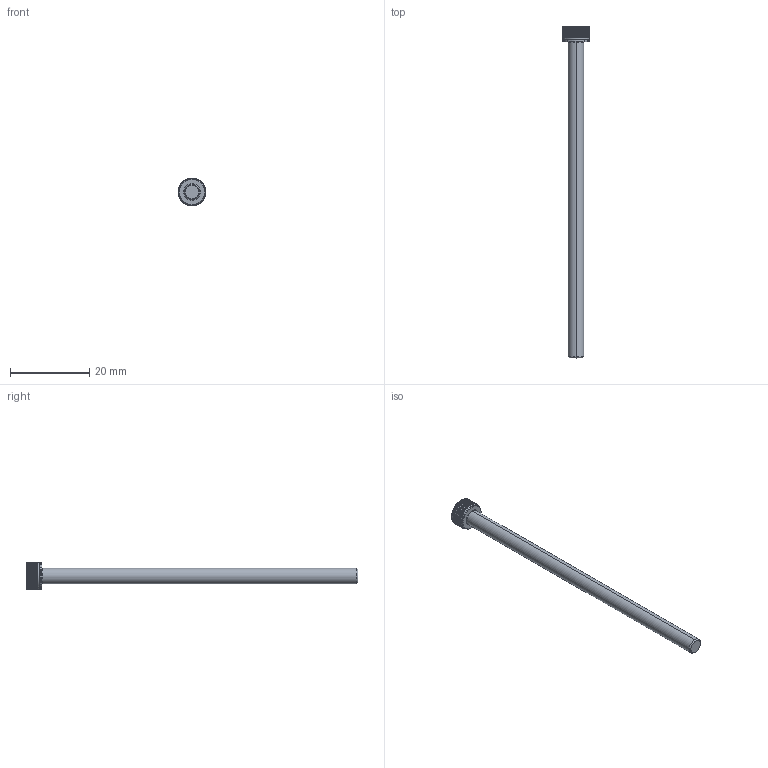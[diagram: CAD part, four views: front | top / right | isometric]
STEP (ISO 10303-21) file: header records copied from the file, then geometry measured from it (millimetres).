
FILE_DESCRIPTION (( 'STEP AP203' ), '1' );
FILE_NAME ('LGDT-304-M4x80.STEP', '2026-08-10T02:00:13', ( '' ), ( '' ), 'SwSTEP 2.0', 'SolidWorks 2020', '' );
FILE_SCHEMA (( 'CONFIG_CONTROL_DESIGN' ));
Length unit declared in the file: millimetre
Products named in the file (1): LGDT-304-M4x80
Bounding box: 7 x 84 x 7 mm (x, y, z)
Volume: 1136 mm3; surface area: 1186.4 mm2
Topology: 1 solids, 1 shells, 204 faces, 576 edges, 376 vertices
Faces by surface type: cylinder 175, cone 11, plane 10, torus 8
Entity records: 10019 total; most frequent: CARTESIAN_POINT 4860, ORIENTED_EDGE 1152, DIRECTION 988, EDGE_CURVE 576, AXIS2_PLACEMENT_3D 398, VERTEX_POINT 376, EDGE_LOOP 206, FACE_OUTER_BOUND 204
